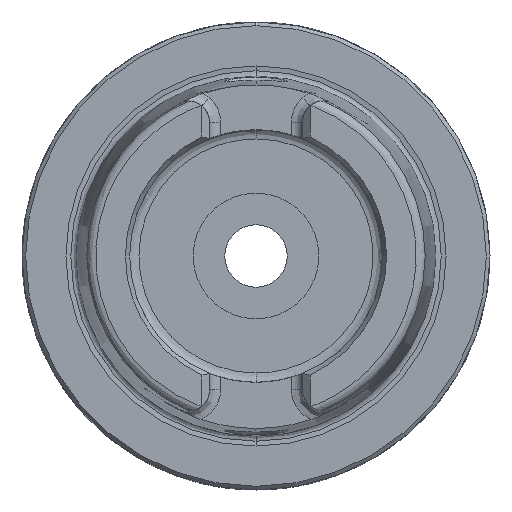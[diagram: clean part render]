
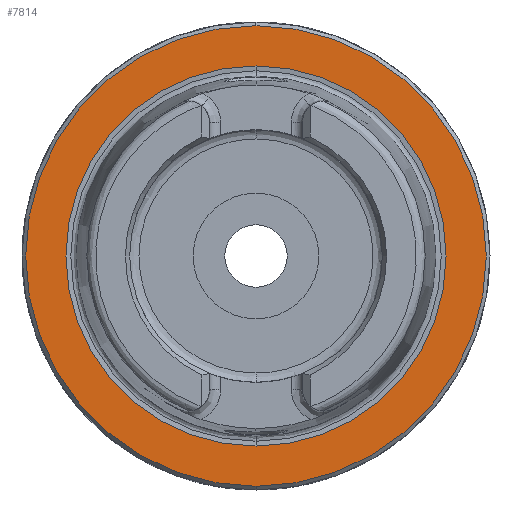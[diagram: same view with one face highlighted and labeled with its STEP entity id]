
A CAD part, left-side view. The second image highlights one B-rep face of the part: STEP entity #7814.
In plain terms, the highlighted planar face has unit normal (-1, 0, 0).
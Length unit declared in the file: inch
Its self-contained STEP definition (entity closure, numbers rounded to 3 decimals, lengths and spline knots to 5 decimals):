
#84 = VERTEX_POINT ( 'NONE', #4586 ) ;
#272 = EDGE_LOOP ( 'NONE', ( #1893, #7559 ) ) ;
#496 = EDGE_CURVE ( 'NONE', #5347, #84, #5301, .T. ) ;
#528 = CARTESIAN_POINT ( 'NONE',  ( 0., 0., 0. ) ) ;
#1173 = FACE_OUTER_BOUND ( 'NONE', #272, .T. ) ;
#1483 = ORIENTED_EDGE ( 'NONE', *, *, #7146, .T. ) ;
#1782 = AXIS2_PLACEMENT_3D ( 'NONE', #2782, #4006, #4052 ) ;
#1859 = DIRECTION ( 'NONE',  ( 0., 0., 1. ) ) ;
#1893 = ORIENTED_EDGE ( 'NONE', *, *, #7664, .F. ) ;
#2332 = VERTEX_POINT ( 'NONE', #5961 ) ;
#2490 = CARTESIAN_POINT ( 'NONE',  ( 0., 1.22047, 0. ) ) ;
#2782 = CARTESIAN_POINT ( 'NONE',  ( 0., 0., 0. ) ) ;
#4006 = DIRECTION ( 'NONE',  ( 1., 0., 0. ) ) ;
#4018 = DIRECTION ( 'NONE',  ( 0., 0., 1. ) ) ;
#4052 = DIRECTION ( 'NONE',  ( 0., 0., -1. ) ) ;
#4414 = CARTESIAN_POINT ( 'NONE',  ( 0., 0., 1.22047 ) ) ;
#4523 = CARTESIAN_POINT ( 'NONE',  ( 0., 0., 0. ) ) ;
#4586 = CARTESIAN_POINT ( 'NONE',  ( 0., 0., -1.22047 ) ) ;
#4665 = CIRCLE ( 'NONE', #7514, 1.22047 ) ;
#5301 = CIRCLE ( 'NONE', #1782, 1.22047 ) ;
#5347 = VERTEX_POINT ( 'NONE', #4414 ) ;
#5716 = PLANE ( 'NONE',  #6960 ) ;
#5828 = DIRECTION ( 'NONE',  ( 0., 0., -1. ) ) ;
#5961 = CARTESIAN_POINT ( 'NONE',  ( 0., 0., 1.0074 ) ) ;
#6130 = DIRECTION ( 'NONE',  ( 1., 0., 0. ) ) ;
#6422 = EDGE_CURVE ( 'NONE', #7111, #2332, #8339, .T. ) ;
#6683 = CARTESIAN_POINT ( 'NONE',  ( 0., 0., 0. ) ) ;
#6699 = AXIS2_PLACEMENT_3D ( 'NONE', #528, #8284, #6956 ) ;
#6913 = CARTESIAN_POINT ( 'NONE',  ( 0., 0., -1.0074 ) ) ;
#6956 = DIRECTION ( 'NONE',  ( 0., 0., 1. ) ) ;
#6960 = AXIS2_PLACEMENT_3D ( 'NONE', #2490, #7668, #1859 ) ;
#6975 = ORIENTED_EDGE ( 'NONE', *, *, #6422, .T. ) ;
#6987 = FACE_BOUND ( 'NONE', #7456, .T. ) ;
#7111 = VERTEX_POINT ( 'NONE', #6913 ) ;
#7146 = EDGE_CURVE ( 'NONE', #2332, #7111, #7251, .T. ) ;
#7251 = CIRCLE ( 'NONE', #6699, 1.0074 ) ;
#7387 = AXIS2_PLACEMENT_3D ( 'NONE', #6683, #6130, #4018 ) ;
#7456 = EDGE_LOOP ( 'NONE', ( #1483, #6975 ) ) ;
#7514 = AXIS2_PLACEMENT_3D ( 'NONE', #4523, #7746, #5828 ) ;
#7559 = ORIENTED_EDGE ( 'NONE', *, *, #496, .F. ) ;
#7664 = EDGE_CURVE ( 'NONE', #84, #5347, #4665, .T. ) ;
#7668 = DIRECTION ( 'NONE',  ( -1., 0., 0. ) ) ;
#7746 = DIRECTION ( 'NONE',  ( 1., 0., 0. ) ) ;
#7814 = ADVANCED_FACE ( 'NONE', ( #6987, #1173 ), #5716, .T. ) ;
#8284 = DIRECTION ( 'NONE',  ( 1., 0., 0. ) ) ;
#8339 = CIRCLE ( 'NONE', #7387, 1.0074 ) ;
